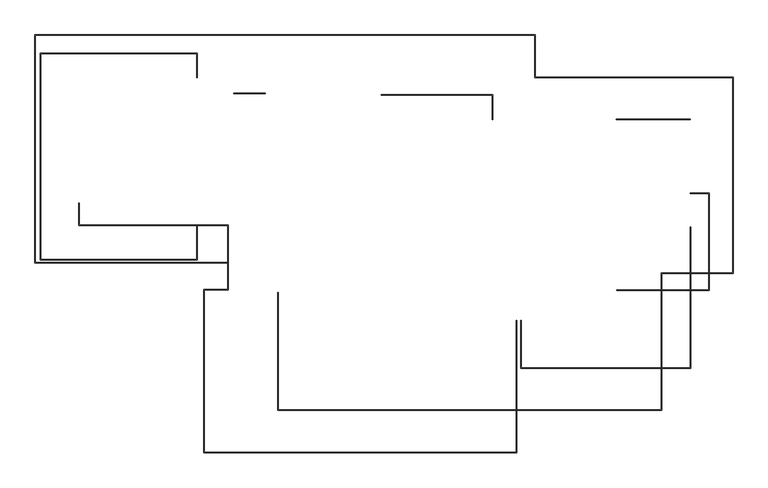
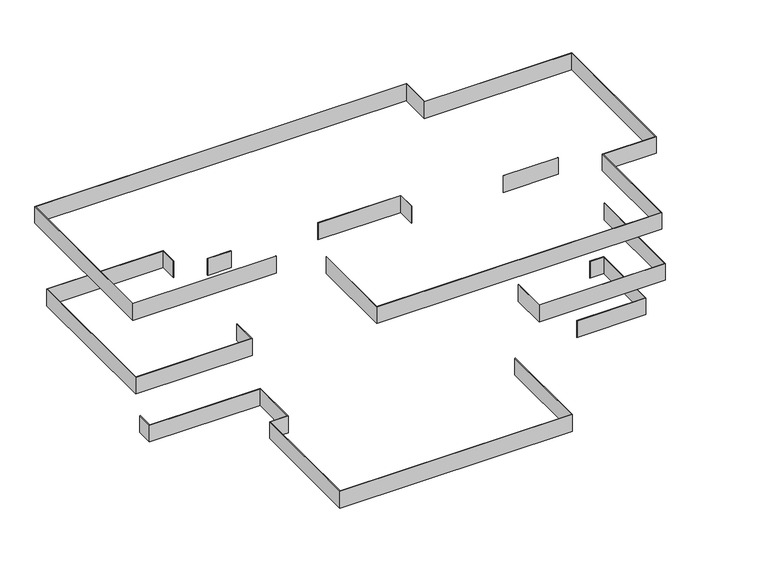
"""IFC4 building model written with IfcOpenShell, lengths in millimetres: proxy geometry, 常规模型 2 : 常规模型 1."""

from ifc_helpers import new_model, si_unit, frame, origin, place, context, project, spatial, polyline, outline, extrude, source, transform, mapped, element, save


def generic_models_15ee8ed9(model_context):
    return source(origin(), model_context, "Body", "SweptSolid", [
        extrude(outline(polyline([(-988.2749545, 498.5827769), (-988.2749545, 478.5827769), (-2188.2749545, 478.5827769), (-2188.2749545, 498.5827769), (-988.2749545, 498.5827769)])), frame((0.0, 0.0, 3000.0), z_axis=(0.0, 0.0, 1.0), x_axis=(1.0, 0.0, 0.0)), (0.0, 0.0, 1.0), 900.0),
        extrude(outline(polyline([(15109.0524305, -501.4172231), (15109.0524305, -521.4172231), (12309.0524305, -521.4172231), (12309.0524305, -501.4172231), (15109.0524305, -501.4172231)])), frame((0.0, 0.0, 3000.0), z_axis=(0.0, 0.0, 1.0), x_axis=(1.0, 0.0, 0.0)), (0.0, 0.0, 1.0), 900.0),
        extrude(outline(polyline([(-510.9475695, -7071.4172231), (-490.9475695, -7071.4172231), (-490.9475695, -11521.4172231), (14009.0524305, -11521.4172231), (14009.0524305, -6321.4172231), (16709.0524305, -6321.4172231), (16709.0524305, 1078.5827769), (9209.0524305, 1078.5827769), (9209.0524305, 2678.5827769), (-9690.9475695, 2678.5827769), (-9690.9475695, -5921.4172231), (-2390.9475695, -5921.4172231), (-2390.9475695, -5941.4172231), (-9710.9475695, -5941.4172231), (-9710.9475695, 2698.5827769), (9229.0524305, 2698.5827769), (9229.0524305, 1098.5827769), (16729.0524305, 1098.5827769), (16729.0524305, -6341.4172231), (14029.0524305, -6341.4172231), (14029.0524305, -11541.4172231), (-510.9475695, -11541.4172231), (-510.9475695, -7071.4172231)])), frame((0.0, 0.0, 7100.0), z_axis=(0.0, 0.0, 1.0), x_axis=(1.0, 0.0, 0.0)), (0.0, 0.0, 1.0), 900.0),
        extrude(outline(polyline([(7629.0524305, -521.4172231), (7609.0524305, -521.4172231), (7609.0524305, 418.5827769), (3409.0524305, 418.5827769), (3409.0524305, 438.5827769), (7629.0524305, 438.5827769), (7629.0524305, -521.4172231)])), frame((0.0, 0.0, 3000.0), z_axis=(0.0, 0.0, 1.0), x_axis=(1.0, 0.0, 0.0)), (0.0, 0.0, 1.0), 900.0),
        extrude(outline(polyline([(8689.0524305, -8121.4172231), (8709.0524305, -8121.4172231), (8709.0524305, -9921.4172231), (15109.0524305, -9921.4172231), (15109.0524305, -4581.4172231), (15129.0524305, -4581.4172231), (15129.0524305, -9941.4172231), (8689.0524305, -9941.4172231), (8689.0524305, -8121.4172231)])), frame((0.0, 0.0, 3000.0), z_axis=(0.0, 0.0, 1.0), x_axis=(1.0, 0.0, 0.0)), (0.0, 0.0, 1.0), 900.0),
        extrude(outline(polyline([(-3570.9475695, 1078.5827769), (-3590.9475695, 1078.5827769), (-3590.9475695, 1978.5827769), (-9490.9475695, 1978.5827769), (-9490.9475695, -5821.4172231), (-3590.9475695, -5821.4172231), (-3590.9475695, -4521.4172231), (-3570.9475695, -4521.4172231), (-3570.9475695, -5841.4172231), (-9510.9475695, -5841.4172231), (-9510.9475695, 1998.5827769), (-3570.9475695, 1998.5827769), (-3570.9475695, 1078.5827769)])), frame((0.0, 0.0, 3000.0), z_axis=(0.0, 0.0, 1.0), x_axis=(1.0, 0.0, 0.0)), (0.0, 0.0, 1.0), 900.0),
        extrude(outline(polyline([(12324.0524305, -6991.4172231), (12324.0524305, -6971.4172231), (15809.0524305, -6971.4172231), (15809.0524305, -3321.4172231), (15109.0524305, -3321.4172231), (15109.0524305, -3301.4172231), (15829.0524305, -3301.4172231), (15829.0524305, -6991.4172231), (12324.0524305, -6991.4172231)])), frame((0.0, 0.0, -900.0), z_axis=(0.0, 0.0, 1.0), x_axis=(1.0, 0.0, 0.0)), (0.0, 0.0, 1.0), 900.0),
        extrude(outline(polyline([(-8050.9475695, -3671.4172231), (-8030.9475695, -3671.4172231), (-8030.9475695, -4511.4172231), (-2390.9475695, -4511.4172231), (-2390.9475695, -6971.4172231), (-3290.9475695, -6971.4172231), (-3290.9475695, -13121.4172231), (8509.0524305, -13121.4172231), (8509.0524305, -8121.4172231), (8529.0524305, -8121.4172231), (8529.0524305, -13141.4172231), (-3310.9475695, -13141.4172231), (-3310.9475695, -6951.4172231), (-2410.9475695, -6951.4172231), (-2410.9475695, -4531.4172231), (-8050.9475695, -4531.4172231), (-8050.9475695, -3671.4172231)])), frame((0.0, 0.0, -900.0), z_axis=(0.0, 0.0, 1.0), x_axis=(1.0, 0.0, 0.0)), (0.0, 0.0, 1.0), 900.0),
    ])


if __name__ == "__main__":
    model = new_model("IFC4")
    model_context = context("Model", 3, world=origin())
    ifc_project = project(units=[si_unit("LENGTHUNIT", "METRE", prefix="MILLI")], contexts=[model_context])
    site = spatial("IfcSite", under=ifc_project)
    building = spatial("IfcBuilding", under=site)
    placement = place(None, origin())
    generic_models_shape = generic_models_15ee8ed9(model_context)
    element("IfcBuildingElementProxy", 1, Name="常规模型 2 : 常规模型 1", ObjectType="常规模型 2 : 常规模型 1", at=placement, inside=building, context=model_context, shape_type="MappedRepresentation", body=[
        mapped(generic_models_shape, transform((0.0, 0.0, 0.0), x_axis=(1.0, 0.0, 0.0), y_axis=(0.0, 1.0, 0.0), z_axis=(0.0, 0.0, 1.0))),
    ])
    save(model, "model.ifc")
